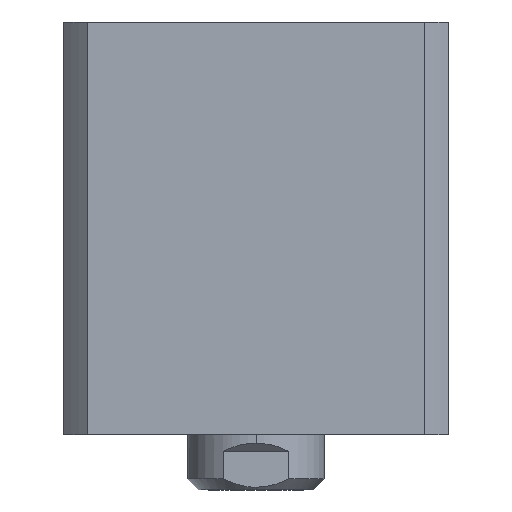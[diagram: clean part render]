
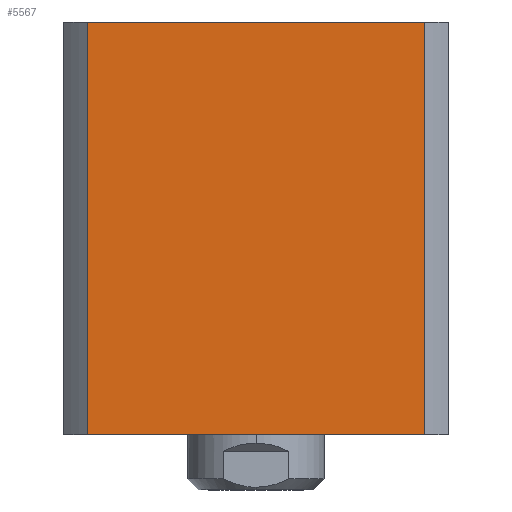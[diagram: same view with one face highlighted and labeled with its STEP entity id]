
A CAD part, front view. The second image highlights one B-rep face of the part: STEP entity #5567.
In plain terms, the highlighted planar face has unit normal (0, -1, 0) as drawn and (1, 0, 0) by its records, which use the part's own axes.
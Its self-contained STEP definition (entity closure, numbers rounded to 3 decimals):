
#642 = LINE ( 'NONE', #3526, #4765 ) ;
#764 = DIRECTION ( 'NONE',  ( 0., 1., 0. ) ) ;
#827 = DIRECTION ( 'NONE',  ( 0., 0., 1. ) ) ;
#863 = EDGE_CURVE ( 'NONE', #5302, #2962, #642, .T. ) ;
#1091 = EDGE_LOOP ( 'NONE', ( #5042, #2128, #1880, #2749 ) ) ;
#1540 = VERTEX_POINT ( 'NONE', #9836 ) ;
#1653 = VECTOR ( 'NONE', #764, 1000. ) ;
#1880 = ORIENTED_EDGE ( 'NONE', *, *, #9193, .F. ) ;
#2080 = EDGE_CURVE ( 'NONE', #2962, #5641, #9180, .T. ) ;
#2128 = ORIENTED_EDGE ( 'NONE', *, *, #863, .F. ) ;
#2320 = CARTESIAN_POINT ( 'NONE',  ( 35., 35., 0. ) ) ;
#2526 = AXIS2_PLACEMENT_3D ( 'NONE', #6915, #5468, #827 ) ;
#2614 = LINE ( 'NONE', #2320, #1653 ) ;
#2749 = ORIENTED_EDGE ( 'NONE', *, *, #7410, .T. ) ;
#2962 = VERTEX_POINT ( 'NONE', #4080 ) ;
#3526 = CARTESIAN_POINT ( 'NONE',  ( 35., 35., 75. ) ) ;
#3638 = DIRECTION ( 'NONE',  ( 0., 1., 0. ) ) ;
#3894 = PLANE ( 'NONE',  #2526 ) ;
#4027 = DIRECTION ( 'NONE',  ( 0., 0., -1. ) ) ;
#4058 = CARTESIAN_POINT ( 'NONE',  ( 35., 30.615, 300. ) ) ;
#4080 = CARTESIAN_POINT ( 'NONE',  ( 35., 30.615, 75. ) ) ;
#4726 = CARTESIAN_POINT ( 'NONE',  ( 35., -30.615, 300. ) ) ;
#4765 = VECTOR ( 'NONE', #3638, 1000. ) ;
#4781 = CARTESIAN_POINT ( 'NONE',  ( 35., 30.615, 0. ) ) ;
#4783 = VECTOR ( 'NONE', #4027, 1000. ) ;
#5042 = ORIENTED_EDGE ( 'NONE', *, *, #2080, .F. ) ;
#5302 = VERTEX_POINT ( 'NONE', #8009 ) ;
#5468 = DIRECTION ( 'NONE',  ( -1., 0., 0. ) ) ;
#5567 = ADVANCED_FACE ( 'NONE', ( #5795 ), #3894, .F. ) ;
#5641 = VERTEX_POINT ( 'NONE', #4781 ) ;
#5795 = FACE_OUTER_BOUND ( 'NONE', #1091, .T. ) ;
#6915 = CARTESIAN_POINT ( 'NONE',  ( 35., 35., 75. ) ) ;
#7410 = EDGE_CURVE ( 'NONE', #1540, #5641, #2614, .T. ) ;
#8009 = CARTESIAN_POINT ( 'NONE',  ( 35., -30.615, 75. ) ) ;
#8613 = DIRECTION ( 'NONE',  ( 0., 0., 1. ) ) ;
#8966 = VECTOR ( 'NONE', #8613, 1000. ) ;
#9180 = LINE ( 'NONE', #4058, #4783 ) ;
#9193 = EDGE_CURVE ( 'NONE', #1540, #5302, #9219, .T. ) ;
#9219 = LINE ( 'NONE', #4726, #8966 ) ;
#9836 = CARTESIAN_POINT ( 'NONE',  ( 35., -30.615, 0. ) ) ;
